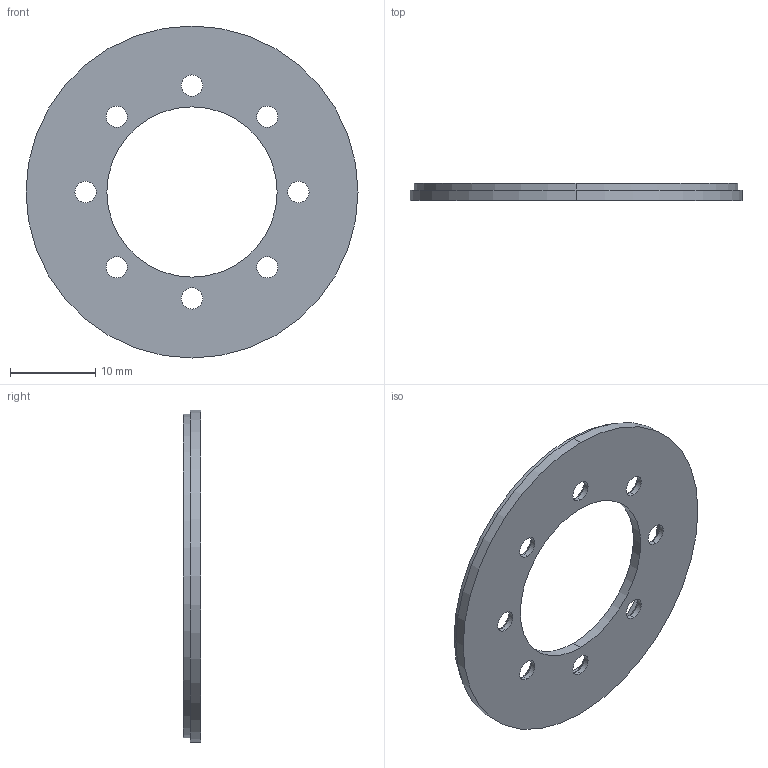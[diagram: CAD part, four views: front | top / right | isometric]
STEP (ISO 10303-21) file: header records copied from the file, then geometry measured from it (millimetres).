
FILE_DESCRIPTION (( 'STEP AP214' ), '1' );
FILE_NAME ('MRA039B020DSE00.STEP', '2019-07-05T10:54:31', ( '' ), ( '' ), 'SwSTEP 2.0', 'SolidWorks 2016', '' );
FILE_SCHEMA (( 'AUTOMOTIVE_DESIGN' ));
Length unit declared in the file: millimetre
Products named in the file (3): MRA039B020DSE00; Elastoferrite OD39_ID29,6x0,8; Prirobnica OD40_ID20x1,2_Ring
Assembly tree (2 placements, depth 2):
  MRA039B020DSE00
    Prirobnica OD40_ID20x1,2_Ring
    Elastoferrite OD39_ID29,6x0,8
Bounding box: 39 x 2 x 39 mm (x, y, z)
Volume: 1353 mm3; surface area: 3024.7 mm2
Topology: 2 solids, 2 shells, 52 faces, 122 edges, 76 vertices
Faces by surface type: cylinder 24, cone 16, plane 12
Entity records: 1652 total; most frequent: DIRECTION 300, CARTESIAN_POINT 255, ORIENTED_EDGE 244, EDGE_CURVE 122, AXIS2_PLACEMENT_3D 121, VERTEX_POINT 76, EDGE_LOOP 74, CIRCLE 64
